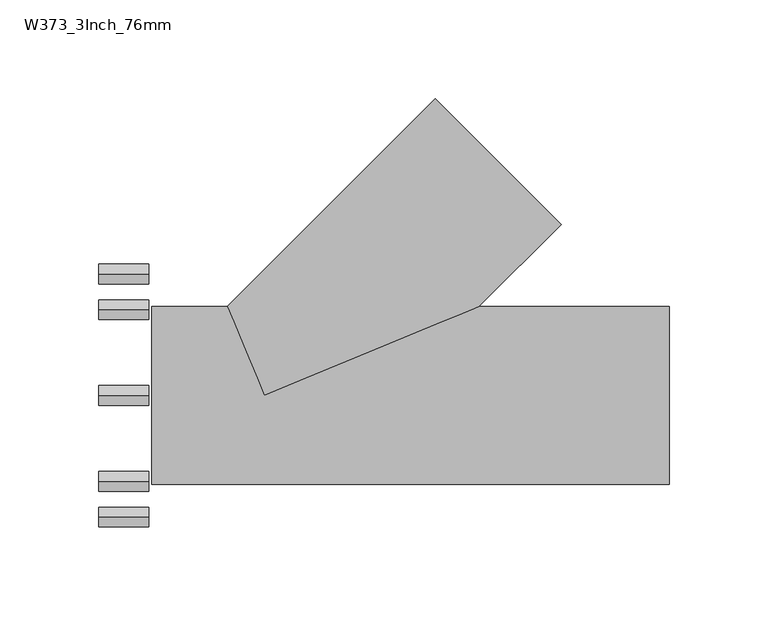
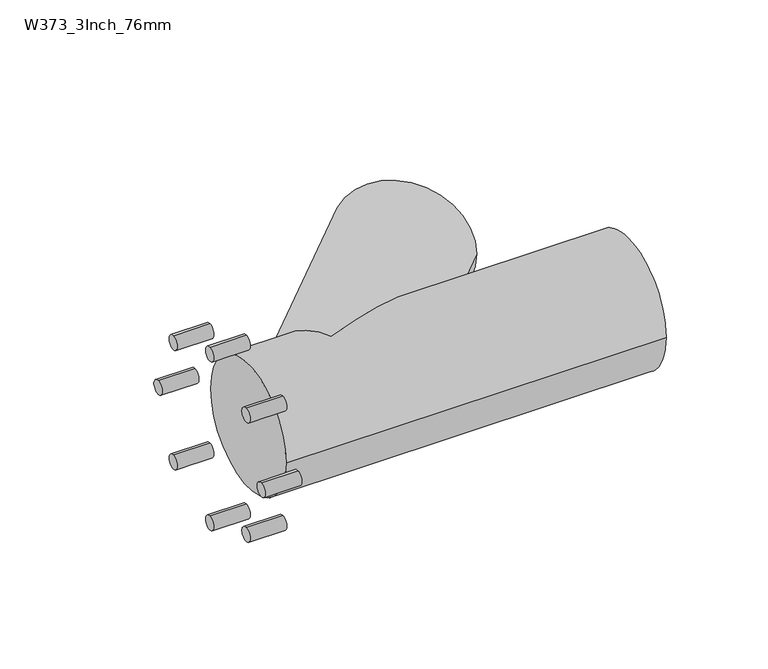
"""IFC4 building model written with IfcOpenShell, lengths in millimetres: pipe fitting geometry, Durapipe_PipeFitting_VulcatheneMechanical_SingleWye_W37 : W373_3Inch_76mm."""

from ifc_helpers import new_model, si_unit, point, frame, frame_2d, origin, place, context, project, spatial, circle_curve, ellipse_curve, trimmed, segment, composite_curve, outline, extrude, source, transform, mapped, element, save
from ifc_brep_helpers import plane_surface, cylinder_surface, advanced_brep


def w373_3inch_76mm_10aee05f(model_context):
    return source(origin(), model_context, "Body", "SolidModel", [
        extrude(outline(composite_curve([segment(trimmed(circle_curve(frame_2d((-61.5, 0.0)), 5.0), [point((-61.5, -5.0))], [point((-61.5, 5.0))], False, "CARTESIAN"), True, "CONTINUOUS"), segment(trimmed(circle_curve(frame_2d((-61.5, 0.0)), 5.0), [point((-61.5, 5.0))], [point((-61.5, -5.0))], False, "CARTESIAN"), True, "CONTINUOUS")], self_intersect=False)), frame((-83.7, 0.0, 0.0), z_axis=(1.0, 0.0, 0.0), x_axis=(0.0, 1.0, 0.0)), (0.0, 0.0, 1.0), 25.2),
        extrude(outline(composite_curve([segment(trimmed(circle_curve(frame_2d((-43.487067, 43.487067)), 5.0), [point((-43.487067, 38.487067))], [point((-43.487067, 48.487067))], False, "CARTESIAN"), True, "CONTINUOUS"), segment(trimmed(circle_curve(frame_2d((-43.487067, 43.487067)), 5.0), [point((-43.487067, 48.487067))], [point((-43.487067, 38.487067))], False, "CARTESIAN"), True, "CONTINUOUS")], self_intersect=False)), frame((-83.7, 0.0, 0.0), z_axis=(1.0, 0.0, 0.0), x_axis=(0.0, 1.0, 0.0)), (0.0, 0.0, 1.0), 25.2),
        extrude(outline(composite_curve([segment(trimmed(circle_curve(frame_2d((0.0, 61.5)), 5.0), [point((0.0, 56.5))], [point((0.0, 66.5))], False, "CARTESIAN"), True, "CONTINUOUS"), segment(trimmed(circle_curve(frame_2d((0.0, 61.5)), 5.0), [point((0.0, 66.5))], [point((0.0, 56.5))], False, "CARTESIAN"), True, "CONTINUOUS")], self_intersect=False)), frame((-83.7, 0.0, 0.0), z_axis=(1.0, 0.0, 0.0), x_axis=(0.0, 1.0, 0.0)), (0.0, 0.0, 1.0), 25.2),
        extrude(outline(composite_curve([segment(trimmed(circle_curve(frame_2d((43.487067, 43.487067)), 5.0), [point((43.487067, 38.487067))], [point((43.487067, 48.487067))], False, "CARTESIAN"), True, "CONTINUOUS"), segment(trimmed(circle_curve(frame_2d((43.487067, 43.487067)), 5.0), [point((43.487067, 48.487067))], [point((43.487067, 38.487067))], False, "CARTESIAN"), True, "CONTINUOUS")], self_intersect=False)), frame((-83.7, 0.0, 0.0), z_axis=(1.0, 0.0, 0.0), x_axis=(0.0, 1.0, 0.0)), (0.0, 0.0, 1.0), 25.2),
        extrude(outline(composite_curve([segment(trimmed(circle_curve(frame_2d((61.5, 0.0)), 5.0), [point((61.5, -5.0))], [point((61.5, 5.0))], False, "CARTESIAN"), True, "CONTINUOUS"), segment(trimmed(circle_curve(frame_2d((61.5, 0.0)), 5.0), [point((61.5, 5.0))], [point((61.5, -5.0))], False, "CARTESIAN"), True, "CONTINUOUS")], self_intersect=False)), frame((-83.7, 0.0, 0.0), z_axis=(1.0, 0.0, 0.0), x_axis=(0.0, 1.0, 0.0)), (0.0, 0.0, 1.0), 25.2),
        extrude(outline(composite_curve([segment(trimmed(circle_curve(frame_2d((43.487067, -43.487067)), 5.0), [point((43.487067, -48.487067))], [point((43.487067, -38.487067))], False, "CARTESIAN"), True, "CONTINUOUS"), segment(trimmed(circle_curve(frame_2d((43.487067, -43.487067)), 5.0), [point((43.487067, -38.487067))], [point((43.487067, -48.487067))], False, "CARTESIAN"), True, "CONTINUOUS")], self_intersect=False)), frame((-83.7, 0.0, 0.0), z_axis=(1.0, 0.0, 0.0), x_axis=(0.0, 1.0, 0.0)), (0.0, 0.0, 1.0), 25.2),
        extrude(outline(composite_curve([segment(trimmed(circle_curve(frame_2d((0.0, -61.5)), 5.0), [point((0.0, -66.5))], [point((0.0, -56.5))], False, "CARTESIAN"), True, "CONTINUOUS"), segment(trimmed(circle_curve(frame_2d((0.0, -61.5)), 5.0), [point((0.0, -56.5))], [point((0.0, -66.5))], False, "CARTESIAN"), True, "CONTINUOUS")], self_intersect=False)), frame((-83.7, 0.0, 0.0), z_axis=(1.0, 0.0, 0.0), x_axis=(0.0, 1.0, 0.0)), (0.0, 0.0, 1.0), 25.2),
        extrude(outline(composite_curve([segment(trimmed(circle_curve(frame_2d((-43.487067, -43.487067)), 5.0), [point((-43.487067, -48.487067))], [point((-43.487067, -38.487067))], False, "CARTESIAN"), True, "CONTINUOUS"), segment(trimmed(circle_curve(frame_2d((-43.487067, -43.487067)), 5.0), [point((-43.487067, -38.487067))], [point((-43.487067, -48.487067))], False, "CARTESIAN"), True, "CONTINUOUS")], self_intersect=False)), frame((-83.7, 0.0, 0.0), z_axis=(1.0, 0.0, 0.0), x_axis=(0.0, 1.0, 0.0)), (0.0, 0.0, 1.0), 25.2),
        advanced_brep(
        [(-57.0, 45.0, 0.0), (-57.0, -45.0, 0.0), (204.9, 45.0, 0.0), (204.9, -45.0, 0.0), (108.6396103, 45.0, 0.0), (0.0, 0.0, 45.0), (-18.6396103, 45.0, 0.0), (0.0, 0.0, -45.0), (86.6205807, 150.260191, 0.0), (150.260191, 86.6205807, 0.0)],
        [
            (0, 1, circle_curve(frame((-57.0, 0.0, 0.0), z_axis=(-1.0, 0.0, 0.0), x_axis=(0.0, -1.0, 0.0)), 45.0)),
            (1, 0, circle_curve(frame((-57.0, 0.0, 0.0), z_axis=(-1.0, 0.0, 0.0), x_axis=(0.0, -1.0, 0.0)), 45.0)),
            (2, 3, circle_curve(frame((204.9, 0.0, 0.0), z_axis=(1.0, 0.0, 0.0), x_axis=(0.0, -1.0, 0.0)), 45.0)),
            (3, 2, circle_curve(frame((204.9, 0.0, 0.0), z_axis=(1.0, 0.0, 0.0), x_axis=(0.0, -1.0, 0.0)), 45.0)),
            (1, 3),
            (2, 4),
            (4, 5, ellipse_curve(frame((0.0, 0.0, 0.0), z_axis=(0.3826834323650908, -0.9238795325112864, 0.0), x_axis=(-0.9238795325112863, -0.38268343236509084, 0.0)), 117.5906668, 45.0)),
            (5, 6, ellipse_curve(frame((0.0, 0.0, 0.0), z_axis=(-0.9238795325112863, -0.3826834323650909, 0.0), x_axis=(-0.3826834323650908, 0.9238795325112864, 0.0)), 48.707649, 45.0)),
            (6, 0),
            (6, 7, ellipse_curve(frame((0.0, 0.0, 0.0), z_axis=(-0.9238795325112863, -0.3826834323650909, 0.0), x_axis=(-0.3826834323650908, 0.9238795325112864, 0.0)), 48.707649, 45.0)),
            (7, 4, ellipse_curve(frame((0.0, 0.0, 0.0), z_axis=(0.3826834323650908, -0.9238795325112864, 0.0), x_axis=(-0.9238795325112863, -0.38268343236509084, 0.0)), 117.5906668, 45.0)),
            (8, 9, circle_curve(frame((118.4403858, 118.4403858, 0.0), z_axis=(0.7071067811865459, 0.7071067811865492, 0.0), x_axis=(0.7071067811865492, -0.7071067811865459, 0.0)), 45.0)),
            (9, 8, circle_curve(frame((118.4403858, 118.4403858, 0.0), z_axis=(0.7071067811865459, 0.7071067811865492, 0.0), x_axis=(0.7071067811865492, -0.7071067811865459, 0.0)), 45.0)),
            (8, 6),
            (4, 9),
        ],
        [
            plane_surface(frame((-57.0, 0.0, 0.0), z_axis=(-1.0, 0.0, 0.0), x_axis=(0.0, 0.0, 1.0))),
            plane_surface(frame((204.9, 0.0, 0.0), z_axis=(1.0, 0.0, 0.0), x_axis=(0.0, 0.0, 1.0))),
            cylinder_surface(frame((-57.0, 0.0, 0.0), z_axis=(-1.0, 0.0, 0.0), x_axis=(0.0, -1.0, 0.0)), 45.0),
            plane_surface(frame((118.4403858, 118.4403858, 0.0), z_axis=(0.7071067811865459, 0.7071067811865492, 0.0), x_axis=(0.0, 0.0, 1.0))),
            cylinder_surface(frame((0.0, 0.0, 0.0), z_axis=(-0.7071067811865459, -0.7071067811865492, 0.0), x_axis=(0.7071067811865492, -0.7071067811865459, 0.0)), 45.0),
        ],
        [
            (0, [[1, 2]]),
            (1, [[3, 4]]),
            (2, [[5, -3, 6, 7, 8, 9, -2]]),
            (2, [[-9, 10, 11, -6, -4, -5, -1]]),
            (3, [[12, 13]]),
            (4, [[14, -8, -7, 15, -12]]),
            (4, [[-15, -11, -10, -14, -13]]),
        ],
    ),
    ])


if __name__ == "__main__":
    model = new_model("IFC4")
    model_context = context("Model", 3, world=origin())
    ifc_project = project(units=[si_unit("LENGTHUNIT", "METRE", prefix="MILLI")], contexts=[model_context])
    site = spatial("IfcSite", under=ifc_project)
    building = spatial("IfcBuilding", under=site)
    placement = place(None, origin())
    w373_3inch_76mm_shape = w373_3inch_76mm_10aee05f(model_context)
    element("IfcPipeFitting", 1, ObjectType="Durapipe_PipeFitting_VulcatheneMechanical_SingleWye_W37 : W373_3Inch_76mm", at=placement, inside=building, context=model_context, shape_type="MappedRepresentation", body=[
        mapped(w373_3inch_76mm_shape, transform((0.0, 0.0, 0.0), x_axis=(1.0, 0.0, 0.0), y_axis=(0.0, 1.0, 0.0), z_axis=(0.0, 0.0, 1.0))),
    ])
    save(model, "model.ifc")
